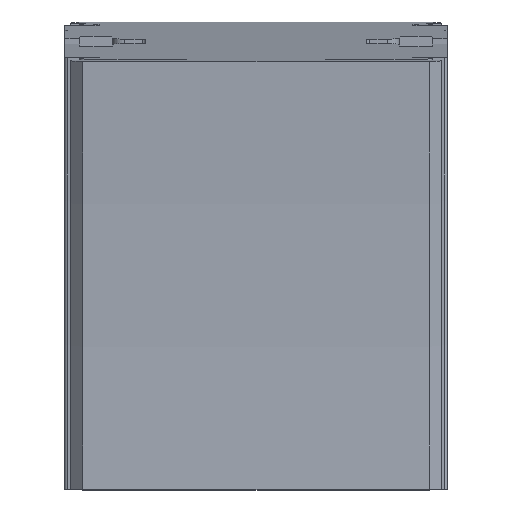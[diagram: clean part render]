
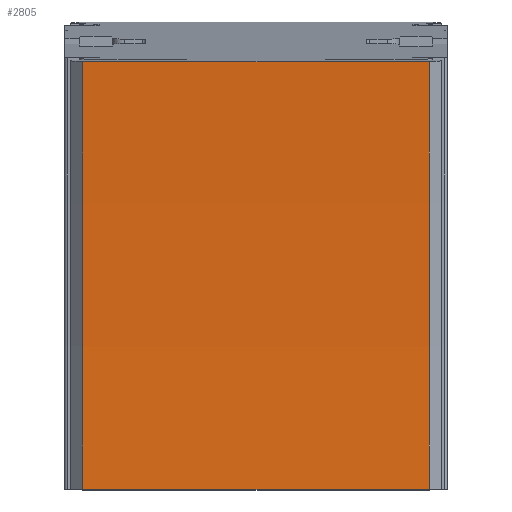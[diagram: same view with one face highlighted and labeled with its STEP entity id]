
A CAD part, top view. The second image highlights one B-rep face of the part: STEP entity #2805.
In plain terms, the highlighted cylindrical face has radius 820 mm (diameter 1640 mm), a partial arc.
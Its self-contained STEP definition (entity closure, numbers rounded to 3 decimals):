
#92=CYLINDRICAL_SURFACE('',#3101,820.);
#315=CIRCLE('',#3100,820.);
#316=CIRCLE('',#3102,820.);
#474=FACE_OUTER_BOUND('',#628,.T.);
#628=EDGE_LOOP('',(#2299,#2300,#2301,#2302));
#821=LINE('',#9361,#1027);
#822=LINE('',#9363,#1028);
#1027=VECTOR('',#3830,10.);
#1028=VECTOR('',#3831,10.);
#1299=VERTEX_POINT('',#9354);
#1300=VERTEX_POINT('',#9356);
#1301=VERTEX_POINT('',#9360);
#1302=VERTEX_POINT('',#9362);
#1698=EDGE_CURVE('',#1299,#1300,#315,.T.);
#1699=EDGE_CURVE('',#1301,#1299,#821,.T.);
#1700=EDGE_CURVE('',#1302,#1300,#822,.T.);
#1701=EDGE_CURVE('',#1301,#1302,#316,.T.);
#2299=ORIENTED_EDGE('',*,*,#1699,.T.);
#2300=ORIENTED_EDGE('',*,*,#1698,.T.);
#2301=ORIENTED_EDGE('',*,*,#1700,.F.);
#2302=ORIENTED_EDGE('',*,*,#1701,.F.);
#2805=ADVANCED_FACE('',(#474),#92,.F.);
#3100=AXIS2_PLACEMENT_3D('',#9358,#3826,#3827);
#3101=AXIS2_PLACEMENT_3D('',#9359,#3828,#3829);
#3102=AXIS2_PLACEMENT_3D('',#9364,#3832,#3833);
#3826=DIRECTION('center_axis',(1.,0.,0.));
#3827=DIRECTION('ref_axis',(0.,0.,-1.));
#3828=DIRECTION('center_axis',(1.,0.,0.));
#3829=DIRECTION('ref_axis',(0.,0.,-1.));
#3830=DIRECTION('',(1.,0.,0.));
#3831=DIRECTION('',(1.,0.,0.));
#3832=DIRECTION('center_axis',(1.,0.,0.));
#3833=DIRECTION('ref_axis',(0.,0.,
-1.));
#9354=CARTESIAN_POINT('',(29.,0.,40.));
#9356=CARTESIAN_POINT('',(29.,71.468,43.12));
#9358=CARTESIAN_POINT('Origin',(29.,0.,
860.));
#9359=CARTESIAN_POINT('Origin',(-14.5,0.,860.));
#9360=CARTESIAN_POINT('',(-29.,0.,40.));
#9361=CARTESIAN_POINT('',(-29.,0.,40.));
#9362=CARTESIAN_POINT('',(-29.,71.468,43.12));
#9363=CARTESIAN_POINT('',(-29.,71.468,43.12));
#9364=CARTESIAN_POINT('Origin',(-29.,0.,
860.));
